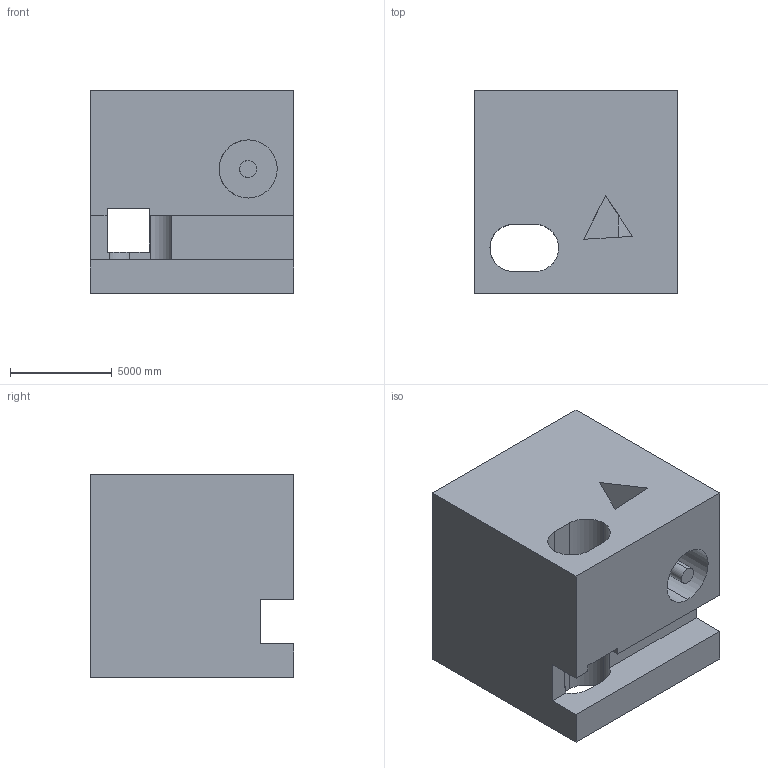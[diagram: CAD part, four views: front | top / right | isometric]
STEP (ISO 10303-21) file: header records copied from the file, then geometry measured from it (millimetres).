
FILE_DESCRIPTION (( 'STEP AP203' ), '1' );
FILE_NAME ('1450.STEP', '2022-08-18T14:32:54', ( 'user' ), ( '' ), 'SwSTEP 2.0', 'SolidWorks 2021', '' );
FILE_SCHEMA (( 'CONFIG_CONTROL_DESIGN' ));
Length unit declared in the file: centimetre
Products named in the file (1): 1450
Bounding box: 10000 x 10000 x 10000 mm (x, y, z)
Volume: 812762442895.4 mm3; surface area: 851242444.6 mm2
Topology: 1 solids, 1 shells, 40 faces, 120 edges, 80 vertices
Faces by surface type: plane 32, cylinder 8
Entity records: 1438 total; most frequent: CARTESIAN_POINT 277, ORIENTED_EDGE 240, DIRECTION 211, EDGE_CURVE 120, VECTOR 87, LINE 87, VERTEX_POINT 80, AXIS2_PLACEMENT_3D 62
